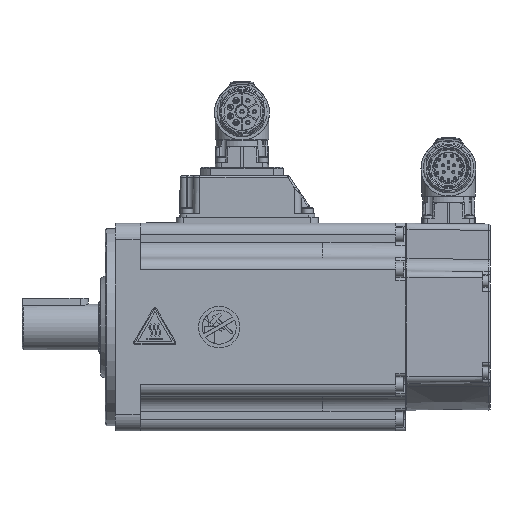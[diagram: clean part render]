
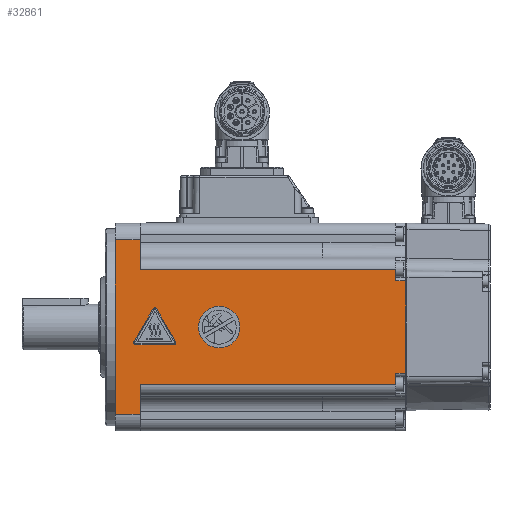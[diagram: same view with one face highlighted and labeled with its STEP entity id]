
A CAD part, front view. The second image highlights one B-rep face of the part: STEP entity #32861.
In plain terms, the highlighted planar face has unit normal (0, -1, 0).
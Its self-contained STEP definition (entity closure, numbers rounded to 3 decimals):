
#32861 = ADVANCED_FACE( '', ( #55655, #55656, #55657 ), #55658, .T. );
#55655 = FACE_BOUND( '', #65146, .T. );
#55656 = FACE_OUTER_BOUND( '', #65147, .T. );
#55657 = FACE_BOUND( '', #65148, .T. );
#55658 = PLANE( '', #65149 );
#56553 = EDGE_CURVE( 'NONE', #66757, #66758, #66759, .T. );
#57496 = EDGE_CURVE( '', #68295, #68365, #68367, .T. );
#57597 = EDGE_CURVE( '', #68538, #68539, #68540, .T. );
#58358 = EDGE_CURVE( '', #69809, #69807, #69810, .T. );
#58655 = EDGE_CURVE( '', #70286, #70286, #70287, .T. );
#59041 = EDGE_CURVE( '', #70894, #70896, #70897, .T. );
#59820 = EDGE_CURVE( '', #72114, #68295, #72115, .T. );
#60955 = EDGE_CURVE( '', #69807, #72114, #73805, .F. );
#61085 = EDGE_CURVE( '', #73993, #73991, #73994, .T. );
#61245 = EDGE_CURVE( '', #68365, #74211, #74214, .F. );
#62244 = EDGE_CURVE( '', #70894, #73993, #75545, .T. );
#62371 = EDGE_CURVE( '', #73991, #68539, #75709, .F. );
#63150 = EDGE_CURVE( 'NONE', #76673, #66757, #76674, .T. );
#63541 = EDGE_CURVE( 'NONE', #77111, #76673, #77112, .T. );
#63669 = EDGE_CURVE( 'NONE', #66758, #77262, #77263, .T. );
#64120 = EDGE_CURVE( '', #74211, #77762, #77764, .T. );
#64352 = EDGE_CURVE( 'NONE', #78007, #77111, #78008, .T. );
#64384 = EDGE_CURVE( 'NONE', #77262, #78007, #78041, .T. );
#65146 = EDGE_LOOP( '', ( #79868 ) );
#65147 = EDGE_LOOP( '', ( #79869, #79870, #79871, #79872, #79873, #79874, #79875, #79876, #79877, #79878, #79879, #79880, #79881 ) );
#65148 = EDGE_LOOP( '', ( #79882, #79883, #79884, #79885, #79886, #79887 ) );
#65149 = AXIS2_PLACEMENT_3D( '', #79888, #79889, #79890 );
#66757 = VERTEX_POINT( 'NONE', #83183 );
#66758 = VERTEX_POINT( 'NONE', #83184 );
#66759 = CIRCLE( '', #83185, 1. );
#68295 = VERTEX_POINT( '', #86209 );
#68365 = VERTEX_POINT( '', #86296 );
#68367 = LINE( '', #86298, #86299 );
#68538 = VERTEX_POINT( '', #86786 );
#68539 = VERTEX_POINT( '', #86787 );
#68540 = LINE( '', #86788, #86789 );
#69807 = VERTEX_POINT( '', #89336 );
#69809 = VERTEX_POINT( '', #89338 );
#69810 = LINE( '', #89339, #89340 );
#70286 = VERTEX_POINT( '', #90200 );
#70287 = CIRCLE( '', #90201, 10. );
#70894 = VERTEX_POINT( '', #91539 );
#70896 = VERTEX_POINT( '', #91541 );
#70897 = LINE( '', #91542, #91543 );
#72114 = VERTEX_POINT( '', #94309 );
#72115 = LINE( '', #94310, #94311 );
#73805 = LINE( '', #97778, #97779 );
#73991 = VERTEX_POINT( '', #98157 );
#73993 = VERTEX_POINT( '', #98159 );
#73994 = LINE( '', #98160, #98161 );
#74211 = VERTEX_POINT( '', #98641 );
#74214 = LINE( '', #98644, #98645 );
#75545 = LINE( '', #101246, #101247 );
#75709 = LINE( '', #101685, #101686 );
#76673 = VERTEX_POINT( '', #103555 );
#76674 = LINE( '', #103556, #103557 );
#77111 = VERTEX_POINT( 'NONE', #104299 );
#77112 = CIRCLE( '', #104300, 1. );
#77262 = VERTEX_POINT( 'NONE', #104586 );
#77263 = LINE( '', #104587, #104588 );
#77762 = VERTEX_POINT( '', #105626 );
#77764 = LINE( '', #105628, #105629 );
#78007 = VERTEX_POINT( 'NONE', #106030 );
#78008 = LINE( '', #106031, #106032 );
#78041 = CIRCLE( '', #106072, 1. );
#79868 = ORIENTED_EDGE( '', *, *, #58655, .F. );
#79869 = ORIENTED_EDGE( '', *, *, #106894, .T. );
#79870 = ORIENTED_EDGE( '', *, *, #58358, .T. );
#79871 = ORIENTED_EDGE( '', *, *, #60955, .T. );
#79872 = ORIENTED_EDGE( '', *, *, #59820, .T. );
#79873 = ORIENTED_EDGE( '', *, *, #57496, .T. );
#79874 = ORIENTED_EDGE( '', *, *, #61245, .T. );
#79875 = ORIENTED_EDGE( '', *, *, #64120, .T. );
#79876 = ORIENTED_EDGE( '', *, *, #106890, .T. );
#79877 = ORIENTED_EDGE( '', *, *, #59041, .F. );
#79878 = ORIENTED_EDGE( '', *, *, #62244, .T. );
#79879 = ORIENTED_EDGE( '', *, *, #61085, .T. );
#79880 = ORIENTED_EDGE( '', *, *, #62371, .T. );
#79881 = ORIENTED_EDGE( '', *, *, #57597, .F. );
#79882 = ORIENTED_EDGE( '', *, *, #64384, .F. );
#79883 = ORIENTED_EDGE( '', *, *, #63669, .F. );
#79884 = ORIENTED_EDGE( '', *, *, #56553, .F. );
#79885 = ORIENTED_EDGE( '', *, *, #63150, .F. );
#79886 = ORIENTED_EDGE( '', *, *, #63541, .F. );
#79887 = ORIENTED_EDGE( '', *, *, #64352, .F. );
#79888 = CARTESIAN_POINT( '', ( 111.642, -50., -50. ) );
#79889 = DIRECTION( '', ( 0., -1., 0. ) );
#79890 = DIRECTION( '', ( 1., 0., 0. ) );
#83183 = CARTESIAN_POINT( '', ( -128.384, -50., 8.801 ) );
#83184 = CARTESIAN_POINT( '', ( -130.116, -50., 8.801 ) );
#83185 = AXIS2_PLACEMENT_3D( '', #108213, #108214, #108215 );
#86209 = CARTESIAN_POINT( '', ( -8.25, -50., 0. ) );
#86296 = CARTESIAN_POINT( '', ( -8.444, -50., 22.25 ) );
#86298 = CARTESIAN_POINT( '', ( -8.69, -50., 50.448 ) );
#86299 = VECTOR( '', #109473, 1000. );
#86786 = CARTESIAN_POINT( '', ( -136.25, -50., -27.75 ) );
#86787 = CARTESIAN_POINT( '', ( -136.25, -50., -42. ) );
#86788 = CARTESIAN_POINT( '', ( -136.25, -50., -50. ) );
#86789 = VECTOR( '', #109574, 1000. );
#89336 = CARTESIAN_POINT( '', ( -13.25, -50., -22.25 ) );
#89338 = CARTESIAN_POINT( '', ( -13.25, -50., -27.75 ) );
#89339 = CARTESIAN_POINT( '', ( -13.25, -50., 50. ) );
#89340 = VECTOR( '', #110478, 1000. );
#90200 = CARTESIAN_POINT( '', ( -88.25, -50., 0. ) );
#90201 = AXIS2_PLACEMENT_3D( '', #110833, #110834, #110835 );
#91539 = CARTESIAN_POINT( '', ( -136.25, -50., 42. ) );
#91541 = CARTESIAN_POINT( '', ( -136.25, -50., 27.75 ) );
#91542 = CARTESIAN_POINT( '', ( -136.25, -50., -50. ) );
#91543 = VECTOR( '', #111320, 1000. );
#94309 = CARTESIAN_POINT( '', ( -8.444, -50., -22.25 ) );
#94310 = CARTESIAN_POINT( '', ( -7.818, -50., 49.545 ) );
#94311 = VECTOR( '', #112284, 1000. );
#97778 = CARTESIAN_POINT( '', ( -8.25, -50., -22.25 ) );
#97779 = VECTOR( '', #113586, 1000. );
#98157 = CARTESIAN_POINT( '', ( -148.25, -50., -42. ) );
#98159 = CARTESIAN_POINT( '', ( -148.25, -50., 42. ) );
#98160 = CARTESIAN_POINT( '', ( -148.25, -50., -50. ) );
#98161 = VECTOR( '', #113732, 1000. );
#98641 = CARTESIAN_POINT( '', ( -13.25, -50., 22.25 ) );
#98644 = CARTESIAN_POINT( '', ( -13.25, -50., 22.25 ) );
#98645 = VECTOR( '', #113914, 1000. );
#101246 = CARTESIAN_POINT( '', ( 111.642, -50., 42. ) );
#101247 = VECTOR( '', #114989, 1000. );
#101685 = CARTESIAN_POINT( '', ( 111.642, -50., -42. ) );
#101686 = VECTOR( '', #115083, 1000. );
#103555 = CARTESIAN_POINT( '', ( -119.251, -50., -7. ) );
#103556 = CARTESIAN_POINT( '', ( -128.384, -50., 8.801 ) );
#103557 = VECTOR( '', #115791, 1000. );
#104299 = CARTESIAN_POINT( '', ( -120.117, -50., -8.5 ) );
#104300 = AXIS2_PLACEMENT_3D( '', #116073, #116074, #116075 );
#104586 = CARTESIAN_POINT( '', ( -139.249, -50., -7. ) );
#104587 = CARTESIAN_POINT( '', ( -139.249, -50., -7. ) );
#104588 = VECTOR( '', #116165, 1000. );
#105626 = CARTESIAN_POINT( '', ( -13.25, -50., 27.75 ) );
#105628 = CARTESIAN_POINT( '', ( -13.25, -50., 50. ) );
#105629 = VECTOR( '', #116453, 1000. );
#106030 = CARTESIAN_POINT( '', ( -138.383, -50., -8.5 ) );
#106031 = CARTESIAN_POINT( '', ( -138.383, -50., -8.5 ) );
#106032 = VECTOR( '', #116572, 1000. );
#106072 = AXIS2_PLACEMENT_3D( '', #116586, #116587, #116588 );
#106890 = EDGE_CURVE( '', #77762, #70896, #117310, .T. );
#106894 = EDGE_CURVE( '', #68538, #69809, #117314, .T. );
#108213 = CARTESIAN_POINT( '', ( -129.25, -50., 8.301 ) );
#108214 = DIRECTION( '', ( 0., -1., 0. ) );
#108215 = DIRECTION( '', ( -1., 0., 0. ) );
#109473 = DIRECTION( '', ( -0.009, 0., 1. ) );
#109574 = DIRECTION( '', ( 0., 0., -1. ) );
#110478 = DIRECTION( '', ( 0., 0., 1. ) );
#110833 = CARTESIAN_POINT( '', ( -98.25, -50., 0. ) );
#110834 = DIRECTION( '', ( 0., -1., 0. ) );
#110835 = DIRECTION( '', ( 1., 0., 0. ) );
#111320 = DIRECTION( '', ( 0., 0., -1. ) );
#112284 = DIRECTION( '', ( 0.009, 0., 1. ) );
#113586 = DIRECTION( '', ( -1., 0., 0. ) );
#113732 = DIRECTION( '', ( 0., 0., -1. ) );
#113914 = DIRECTION( '', ( 1., 0., 0. ) );
#114989 = DIRECTION( '', ( -1., 0., 0. ) );
#115083 = DIRECTION( '', ( -1., 0., 0. ) );
#115791 = DIRECTION( '', ( -0.5, 0., 0.866 ) );
#116073 = CARTESIAN_POINT( '', ( -120.117, -50., -7.5 ) );
#116074 = DIRECTION( '', ( 0., -1., 0. ) );
#116075 = DIRECTION( '', ( 1., 0., 0. ) );
#116165 = DIRECTION( '', ( -0.5, 0., -0.866 ) );
#116453 = DIRECTION( '', ( 0., 0., 1. ) );
#116572 = DIRECTION( '', ( 1., 0., 0. ) );
#116586 = CARTESIAN_POINT( '', ( -138.383, -50., -7.5 ) );
#116587 = DIRECTION( '', ( 0., -1., 0. ) );
#116588 = DIRECTION( '', ( -1., 0., 0. ) );
#117310 = LINE( '', #118475, #118476 );
#117314 = LINE( '', #118483, #118484 );
#118475 = CARTESIAN_POINT( '', ( 111.642, -50., 27.75 ) );
#118476 = VECTOR( '', #119276, 1000. );
#118483 = CARTESIAN_POINT( '', ( 111.642, -50., -27.75 ) );
#118484 = VECTOR( '', #119280, 1000. );
#119276 = DIRECTION( '', ( -1., 0., 0. ) );
#119280 = DIRECTION( '', ( 1., 0., 0. ) );
